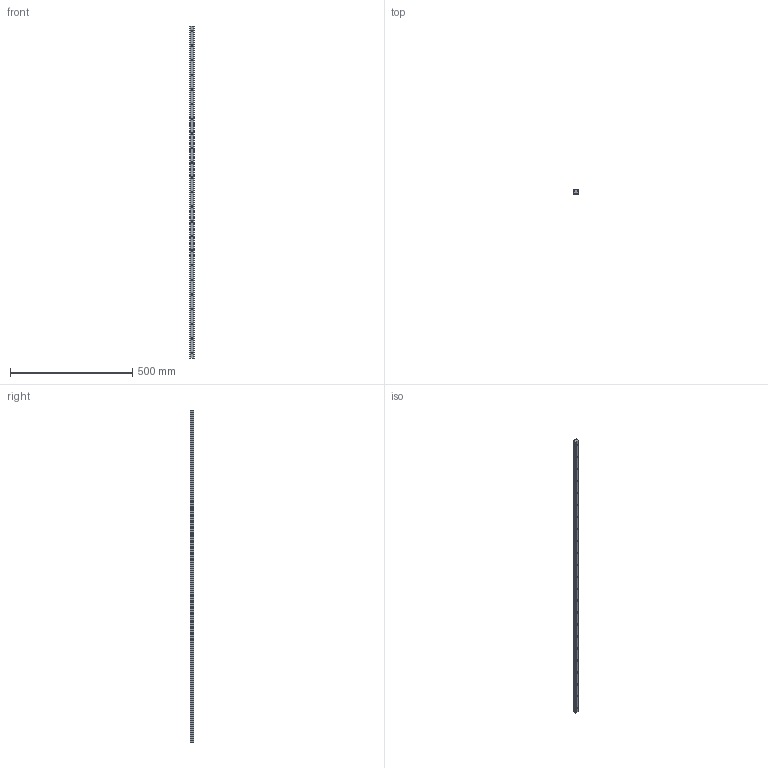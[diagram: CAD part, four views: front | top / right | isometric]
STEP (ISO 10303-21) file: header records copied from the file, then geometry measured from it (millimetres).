
FILE_DESCRIPTION (( 'STEP AP203' ), '1' );
FILE_NAME ('L1016.BL20-1360.step', '2019-06-12T11:49:10', ( '' ), ( '' ), 'SwSTEP 2.0', 'SolidWorks 2017', '' );
FILE_SCHEMA (( 'CONFIG_CONTROL_DESIGN' ));
Length unit declared in the file: millimetre
Products named in the file (1): L1016.BL20-1360
Bounding box: 20 x 16.3 x 1360 mm (x, y, z)
Volume: 377899.7 mm3; surface area: 109764.4 mm2
Topology: 1 solids, 1 shells, 141 faces, 348 edges, 232 vertices
Faces by surface type: cylinder 96, plane 45
Entity records: 4443 total; most frequent: DIRECTION 824, CARTESIAN_POINT 722, ORIENTED_EDGE 696, EDGE_CURVE 348, AXIS2_PLACEMENT_3D 334, VERTEX_POINT 232, EDGE_LOOP 210, CIRCLE 192
